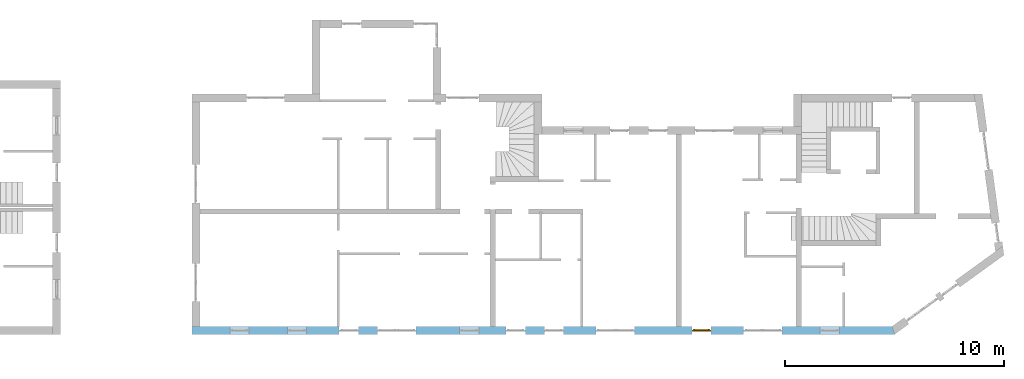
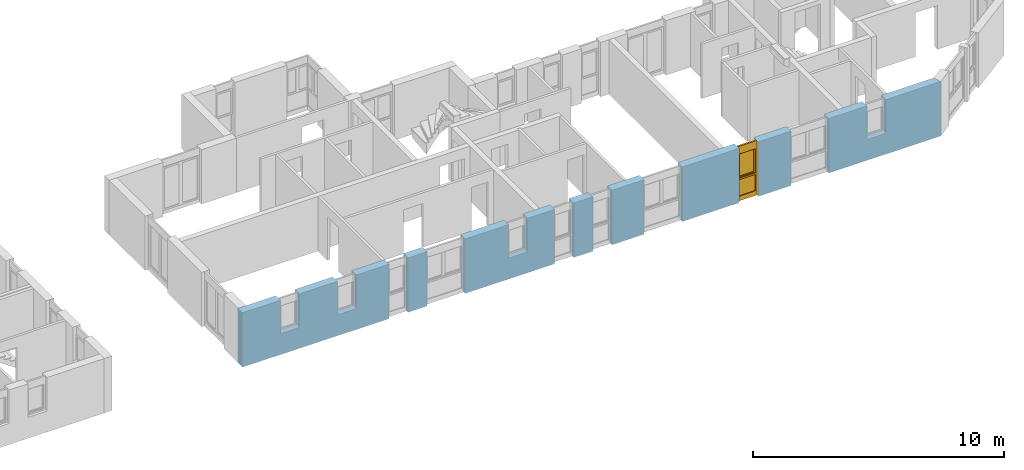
# One storey, part 22 of 42: 1 window, 11 openings, plus 1 element that does not belong to this part.
"""IFC2X3 building model written with IfcOpenShell, lengths in millimetres."""

import ifcopenshell
import ifcopenshell.guid

model = None  # the IFC model being written
_history = None  # IfcOwnerHistory: only IFC2X3 demands one
_inside = {}  # id of a spatial element -> (the spatial element, [elements in it])
_under = {}  # id of a project, library or spatial element -> (it, [spatial elements below it])
_declared = {}  # id of a project -> (the project, [libraries it declares])
_typed = {}  # id of a type object -> (the type object, [elements of that type])
_made_of = {}  # id of a material, layer set ... -> (it, [elements and type objects made of it])


def new_model(schema):
    """Start an empty IFC model of exactly this schema.

    Asked for "IFC4X3", IfcOpenShell would pick the latest addendum, in which some entities
    have other attributes; the version numbers below select the first issue.
    IFC2X3 requires an IfcOwnerHistory on every rooted entity: one is made here for all.
    """
    global model, _history
    if schema == "IFC4X3":
        model = ifcopenshell.file(schema_version=(4, 3, 0, 0))
    else:
        model = ifcopenshell.file(schema=schema)
    _inside.clear()
    _under.clear()
    _declared.clear()
    _typed.clear()
    _made_of.clear()
    _history = None
    if model.schema == "IFC2X3":
        org = make("IfcOrganization", Name="unknown")
        user = make(
            "IfcPersonAndOrganization",
            ThePerson=make("IfcPerson", FamilyName="unknown"),
            TheOrganization=org,
        )
        app = make(
            "IfcApplication",
            ApplicationDeveloper=org,
            Version="unknown",
            ApplicationFullName="unknown",
            ApplicationIdentifier="unknown",
        )
        _history = make(
            "IfcOwnerHistory",
            OwningUser=user,
            OwningApplication=app,
            ChangeAction="ADDED",
            CreationDate=0,
        )
    return model


def make(cls, **values):
    """One entity of the class cls with the attributes given. An attribute that is None is left unset."""
    return model.create_entity(
        cls, **{name: value for name, value in values.items() if value is not None}
    )


def entity(cls, *values):
    """Any entity or typed value of the class cls, its attributes in the order of the schema. None: left unset."""
    e = model.create_entity(cls)
    for i, value in enumerate(values):
        if value is not None:
            e[i] = value
    return e


def rooted(cls, **values):
    """An entity with a GlobalId (a new one), such as an element, a storey or a relation."""
    return make(cls, GlobalId=ifcopenshell.guid.new(), OwnerHistory=_history, **values)


def si_unit(unit_type, name, prefix=None):
    """IfcSIUnit, for example si_unit("LENGTHUNIT", "METRE", prefix="MILLI")."""
    return make("IfcSIUnit", UnitType=unit_type, Prefix=prefix, Name=name)


def converted_unit(unit_type, name, factor, base, dimensions=None, offset=None):
    """IfcConversionBasedUnit, such as the inch: factor (a typed value) times the base unit."""
    return make(
        "IfcConversionBasedUnit"
        if offset is None
        else "IfcConversionBasedUnitWithOffset",
        ConversionOffset=offset,
        Dimensions=None
        if dimensions is None
        else entity("IfcDimensionalExponents", *dimensions),
        UnitType=unit_type,
        Name=name,
        ConversionFactor=make(
            "IfcMeasureWithUnit", ValueComponent=factor, UnitComponent=base
        ),
    )


def assignment(units):
    """IfcUnitAssignment: the units of a project."""
    return None if units is None else make("IfcUnitAssignment", Units=units)


def point(xyz):
    """IfcCartesianPoint."""
    return None if xyz is None else make("IfcCartesianPoint", Coordinates=xyz)


def direction(xyz):
    """IfcDirection."""
    return None if xyz is None else make("IfcDirection", DirectionRatios=xyz)


def frame(location, z_axis=None, x_axis=None):
    """IfcAxis2Placement3D, a coordinate frame: its origin and axes. An axis left out is left unset."""
    return make(
        "IfcAxis2Placement3D",
        Location=point(location),
        Axis=direction(z_axis),
        RefDirection=direction(x_axis),
    )


def frame_2d(location, x_axis=None):
    """IfcAxis2Placement2D, a coordinate frame in the plane: its origin and x axis."""
    return make(
        "IfcAxis2Placement2D", Location=point(location), RefDirection=direction(x_axis)
    )


def origin():
    """The frame at (0, 0, 0) with its axes left unset."""
    return frame((0.0, 0.0, 0.0))


def origin_with_axes():
    """The frame at (0, 0, 0) with the z axis (0, 0, 1) and the x axis (1, 0, 0) written out."""
    return frame((0.0, 0.0, 0.0), z_axis=(0.0, 0.0, 1.0), x_axis=(1.0, 0.0, 0.0))


def place(relative_to, where):
    """IfcLocalPlacement: puts the frame where relative to a parent placement (None: the world)."""
    return make(
        "IfcLocalPlacement", PlacementRelTo=relative_to, RelativePlacement=where
    )


def context(
    kind, dimensions, precision=None, world=None, true_north=None, identifier=None
):
    """IfcGeometricRepresentationContext, for example the 3D "Model" context."""
    return make(
        "IfcGeometricRepresentationContext",
        ContextIdentifier=identifier,
        ContextType=kind,
        CoordinateSpaceDimension=dimensions,
        Precision=precision,
        WorldCoordinateSystem=world,
        TrueNorth=true_north,
    )


def subcontext(parent, identifier, kind, view, scale=None):
    """IfcGeometricRepresentationSubContext, for example "Body" below "Model"."""
    return make(
        "IfcGeometricRepresentationSubContext",
        ContextIdentifier=identifier,
        ContextType=kind,
        ParentContext=parent,
        TargetScale=scale,
        TargetView=view,
    )


def project(units=None, contexts=None):
    """IfcProject with its units and contexts."""
    return rooted(
        "IfcProject",
        Name="project",
        RepresentationContexts=contexts,
        UnitsInContext=assignment(units),
    )


def spatial(cls, under=None, at=None, **own):
    """A site, building, storey or space (cls), placed at a placement, below another one or the project."""
    s = rooted(cls, ObjectPlacement=at, **own)
    if under is not None:
        _under.setdefault(under.id(), (under, []))[1].append(s)
    return s


def polyline(points):
    """IfcPolyline through the points."""
    return make("IfcPolyline", Points=[point(p) for p in points])


def profile(cls, at=None, kind="AREA", **sizes):
    """A parametric profile (cls). Its sizes go by their IFC names, for example OverallWidth=200.0."""
    return make(cls, ProfileType=kind, Position=at, **sizes)


def rectangle(**sizes):
    """IfcRectangleProfileDef."""
    return profile("IfcRectangleProfileDef", **sizes)


def outline(outer, holes=None, kind="AREA"):
    """IfcArbitraryClosedProfileDef: a profile drawn as a closed curve; with holes, ...WithVoids."""
    if holes is None:
        return make("IfcArbitraryClosedProfileDef", ProfileType=kind, OuterCurve=outer)
    return make(
        "IfcArbitraryProfileDefWithVoids",
        ProfileType=kind,
        OuterCurve=outer,
        InnerCurves=holes,
    )


def extrude(swept, where, along, depth):
    """IfcExtrudedAreaSolid: the profile swept, set in the frame where, extruded along a direction by depth."""
    return make(
        "IfcExtrudedAreaSolid",
        SweptArea=swept,
        Position=where,
        ExtrudedDirection=direction(along),
        Depth=depth,
    )


def faces_of(points, faces, orient=None, outer=None):
    """IfcFace entities. A face is a list of loops; a loop is a list of indices into points, from 0.

    orient and outer hold one flag for each loop. By default every Orientation is true, the
    first loop of a face is its IfcFaceOuterBound and the others are IfcFaceBound.
    """
    made = []
    for i, loops in enumerate(faces):
        bounds = []
        for j, loop in enumerate(loops):
            is_outer = j == 0 if outer is None else outer[i][j]
            bounds.append(
                make(
                    "IfcFaceOuterBound" if is_outer else "IfcFaceBound",
                    Bound=make("IfcPolyLoop", Polygon=[points[k] for k in loop]),
                    Orientation=True if orient is None else orient[i][j],
                )
            )
        made.append(make("IfcFace", Bounds=bounds))
    return made


def faceted_brep(points, faces, orient=None, outer=None, voids=None):
    """IfcFacetedBrep: a solid bounded by flat faces; with voids (closed shells), ...WithVoids."""
    shared = [point(p) for p in points]
    hull = make("IfcClosedShell", CfsFaces=faces_of(shared, faces, orient, outer))
    if voids is None:
        return make("IfcFacetedBrep", Outer=hull)
    return make(
        "IfcFacetedBrepWithVoids",
        Outer=hull,
        Voids=[
            make(cls, CfsFaces=faces_of(shared, fs, o, b)) for cls, fs, o, b in voids
        ],
    )


def shape(context_of_items, identifier, shape_type, items):
    """IfcShapeRepresentation: the items that make up one representation, for example the "Body"."""
    return make(
        "IfcShapeRepresentation",
        ContextOfItems=context_of_items,
        RepresentationIdentifier=identifier,
        RepresentationType=shape_type,
        Items=items,
    )


def material(Name=None, Category=None):
    """IfcMaterial."""
    return make("IfcMaterial", Name=Name, Category=Category)


def layer(
    of_material, thickness, ventilated=None, Name=None, Category=None, Priority=None
):
    """IfcMaterialLayer: one layer of a wall or slab, of a material (None: an air gap)."""
    return make(
        "IfcMaterialLayer",
        Material=of_material,
        LayerThickness=thickness,
        IsVentilated=ventilated,
        Name=Name,
        Category=Category,
        Priority=Priority,
    )


def layer_set(layers, Name=None):
    """IfcMaterialLayerSet."""
    return make("IfcMaterialLayerSet", MaterialLayers=layers, LayerSetName=Name)


def layer_usage(for_layer_set, set_direction, sense, offset, extent=None):
    """IfcMaterialLayerSetUsage: how a layer set lies in its element."""
    return make(
        "IfcMaterialLayerSetUsage",
        ForLayerSet=for_layer_set,
        LayerSetDirection=set_direction,
        DirectionSense=sense,
        OffsetFromReferenceLine=offset,
        ReferenceExtent=extent,
    )


def made_of(thing, what):
    """Note that an element or type object is made of a material, layer set ...; save() writes the relation."""
    if what is not None:
        _made_of.setdefault(what.id(), (what, []))[1].append(thing)
    return thing


def type_object(cls, material=None, **own):
    """A type object (cls), such as IfcWallType, which elements share."""
    return made_of(rooted(cls, **own), material)


def element(
    cls,
    number,
    at=None,
    inside=None,
    cuts=None,
    type_object=None,
    material=None,
    context=None,
    identifier="Body",
    shape_type=None,
    held_by="IfcProductDefinitionShape",
    body=None,
    shapes=None,
    **own,
):
    """One element of the class cls, such as IfcWall. Its Tag is "e" and its number.

    at: its placement. inside: the storey or other place that contains it. cuts: it is an
    opening in that element (IfcRelVoidsElement). A single representation is given by context,
    identifier, shape_type and body (its items); several are given by shapes. held_by: the class
    of the entity that holds the representations. save() writes the other relations.
    """
    e = rooted(cls, Tag="e%d" % number, ObjectPlacement=at, **own)
    if body is not None:
        shapes = [shape(context, identifier, shape_type, body)]
    if shapes is not None:
        e.Representation = make(held_by, Representations=shapes)
    if inside is not None:
        _inside.setdefault(inside.id(), (inside, []))[1].append(e)
    if cuts is not None:
        rooted(
            "IfcRelVoidsElement", RelatingBuildingElement=cuts, RelatedOpeningElement=e
        )
    if type_object is not None:
        _typed.setdefault(type_object.id(), (type_object, []))[1].append(e)
    return made_of(e, material)


def fill(opening, filler):
    """IfcRelFillsElement: the door or window that sits in an opening."""
    return rooted(
        "IfcRelFillsElement",
        RelatingOpeningElement=opening,
        RelatedBuildingElement=filler,
    )


def aggregate(whole, parts):
    """IfcRelAggregates: a whole, such as a stair, and the parts it consists of."""
    return rooted("IfcRelAggregates", RelatingObject=whole, RelatedObjects=parts)


def save(model, path):
    """Write the relations noted so far, then the file.

    IfcRelAggregates (storeys below a building ...), IfcRelContainedInSpatialStructure (elements
    in a storey), IfcRelDefinesByType, IfcRelAssociatesMaterial and IfcRelDeclares: one each for
    every whole, place, type object, material and project.
    """
    for whole, parts in _under.values():
        aggregate(whole, parts)
    for where, things in _inside.values():
        rooted(
            "IfcRelContainedInSpatialStructure",
            RelatedElements=things,
            RelatingStructure=where,
        )
    for kind, things in _typed.values():
        rooted("IfcRelDefinesByType", RelatedObjects=things, RelatingType=kind)
    for what, things in _made_of.values():
        rooted("IfcRelAssociatesMaterial", RelatedObjects=things, RelatingMaterial=what)
    for by, libraries in _declared.values():
        rooted("IfcRelDeclares", RelatingContext=by, RelatedDefinitions=libraries)
    model.write(path)


model = new_model("IFC2X3")

# Units and contexts
model_context = context("Model", 3, precision=1e-05, world=origin())
body_context = subcontext(model_context, "Body", "Model", "MODEL_VIEW")
ifc_project = project(units=[si_unit("LENGTHUNIT", "METRE", prefix="MILLI"), converted_unit("PLANEANGLEUNIT", "DEGREE", entity("IfcPlaneAngleMeasure", 0.0174532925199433), si_unit("PLANEANGLEUNIT", "RADIAN"), dimensions=[0, 0, 0, 0, 0, 0, 0]), si_unit("AREAUNIT", "SQUARE_METRE"), si_unit("VOLUMEUNIT", "CUBIC_METRE")], contexts=[model_context])

# Building, storey
building_placement = place(None, origin())
building = spatial("IfcBuilding", under=ifc_project, at=building_placement, Name="Gebäude", CompositionType="ELEMENT")
storey_placement = place(building_placement, frame((0.0, 0.0, 2730.0), z_axis=(0.0, 0.0, 1.0), x_axis=(1.0, 0.0, 0.0)))
storey = spatial("IfcBuildingStorey", under=building, at=storey_placement, Name="OG.- Grundriss", CompositionType="ELEMENT", Elevation=2730.0)

# Wall, openings, window
ifc_material_1 = material(Name="Poroton")
ifc_layer = layer(ifc_material_1, 365.0000000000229)
ifc_layer_set = layer_set([ifc_layer])
ifc_layer_usage = layer_usage(ifc_layer_set, "AXIS2", "POSITIVE", 0.0)
wall_placement = place(storey_placement, frame((148357.7928067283, 125274.8877324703, 0.0), z_axis=(0.0, 0.0, 1.0), x_axis=(1.0, -2.749268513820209e-11, 0.0)))
wall = element("IfcWallStandardCase", 1, at=wall_placement, inside=storey, material=ifc_layer_usage, Name="<Unnamed Element>", context=body_context, shape_type="SweptSolid", body=[
    extrude(outline(polyline([(0.0, 0.0), (32144.99999877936, 0.0), (32026.74038666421, 365.0000000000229), (-1.003483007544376e-08, 365.0), (0.0, 0.0)])), origin_with_axes(), (0.0, 0.0, 1.0), 2650.0),
])
opening_1_placement = place(wall_placement, frame((22865.29648749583, -9.393166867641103e-11, 0.0), z_axis=(0.0, 1.0, 0.0), x_axis=(0.0, 0.0, 1.0)))
opening_1 = element("IfcOpeningElement", 2, at=opening_1_placement, cuts=wall, Name="Fensteröffnung", ObjectType="Opening", context=body_context, shape_type="SweptSolid", body=[
    extrude(rectangle(XDim=2650.0, YDim=885.0, at=frame_2d((1325.0, 442.5), x_axis=(1.0, 0.0))), origin_with_axes(), (0.0, 0.0, 1.0), 365.0000000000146),
])
opening_2_placement = place(wall_placement, frame((25240.29648749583, -1.030266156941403e-10, 0.0), z_axis=(0.0, 1.0, 0.0), x_axis=(0.0, 0.0, 1.0)))
element("IfcOpeningElement", 3, at=opening_2_placement, cuts=wall, Name="Fensteröffnung", ObjectType="Opening", context=body_context, shape_type="SweptSolid", body=[
    extrude(rectangle(XDim=2650.0, YDim=1760.0, at=frame_2d((1325.0, 880.0), x_axis=(1.0, 0.0))), origin_with_axes(), (0.0, 0.0, 1.0), 365.0000000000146),
])
opening_3_placement = place(wall_placement, frame((14365.26291869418, -5.847463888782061e-11, 0.0), z_axis=(0.0, 1.0, 0.0), x_axis=(0.0, 0.0, 1.0)))
element("IfcOpeningElement", 4, at=opening_3_placement, cuts=wall, Name="Fensteröffnung", ObjectType="Opening", context=body_context, shape_type="SweptSolid", body=[
    extrude(rectangle(XDim=2650.0, YDim=885.0, at=frame_2d((1325.0, 442.5), x_axis=(1.0, 0.0))), origin_with_axes(), (0.0, 0.0, 1.0), 365.0000000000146),
])
opening_4_placement = place(wall_placement, frame((16123.92212975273, -7.146586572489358e-11, 0.0), z_axis=(0.0, 1.0, 0.0), x_axis=(0.0, 0.0, 1.0)))
element("IfcOpeningElement", 5, at=opening_4_placement, cuts=wall, Name="Fensteröffnung", ObjectType="Opening", context=body_context, shape_type="SweptSolid", body=[
    extrude(rectangle(XDim=2650.0, YDim=885.0, at=frame_2d((1325.0, 442.5), x_axis=(1.0, 0.0))), origin_with_axes(), (0.0, 0.0, 1.0), 365.0000000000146),
])
opening_5_placement = place(wall_placement, frame((6739.999999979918, -3.114109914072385e-11, 0.0), z_axis=(0.0, 1.0, 0.0), x_axis=(0.0, 0.0, 1.0)))
element("IfcOpeningElement", 6, at=opening_5_placement, cuts=wall, Name="Fensteröffnung", ObjectType="Opening", context=body_context, shape_type="SweptSolid", body=[
    extrude(rectangle(XDim=2650.0, YDim=885.0, at=frame_2d((1325.0, 442.5), x_axis=(1.0, 0.0))), origin_with_axes(), (0.0, 0.0, 1.0), 365.0000000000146),
])
opening_6_placement = place(wall_placement, frame((8489.999999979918, -3.477907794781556e-11, 0.0), z_axis=(0.0, 1.0, 0.0), x_axis=(0.0, 0.0, 1.0)))
element("IfcOpeningElement", 7, at=opening_6_placement, cuts=wall, Name="Fensteröffnung", ObjectType="Opening", context=body_context, shape_type="SweptSolid", body=[
    extrude(rectangle(XDim=2650.0, YDim=1760.0, at=frame_2d((1325.0, 880.0), x_axis=(1.0, 0.0))), origin_with_axes(), (0.0, 0.0, 1.0), 365.0000000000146),
])
opening_7_placement = place(wall_placement, frame((1740.0, -3.114109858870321e-11, 1020.0), z_axis=(0.0, 1.0, 0.0), x_axis=(0.0, 0.0, 1.0)))
element("IfcOpeningElement", 8, at=opening_7_placement, cuts=wall, Name="Fensteröffnung", ObjectType="Opening", context=body_context, shape_type="SweptSolid", body=[
    extrude(rectangle(XDim=1630.0, YDim=885.0, at=frame_2d((815.0, 442.5), x_axis=(1.0, 0.0))), origin_with_axes(), (0.0, 0.0, 1.0), 365.0000000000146),
])
opening_8_placement = place(wall_placement, frame((4365.0, -7.494236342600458e-12, 1020.0), z_axis=(0.0, 1.0, 0.0), x_axis=(0.0, 0.0, 1.0)))
element("IfcOpeningElement", 9, at=opening_8_placement, cuts=wall, Name="Fensteröffnung", ObjectType="Opening", context=body_context, shape_type="SweptSolid", body=[
    extrude(rectangle(XDim=1630.0, YDim=885.0, at=frame_2d((815.0, 442.5), x_axis=(1.0, 0.0))), origin_with_axes(), (0.0, 0.0, 1.0), 365.0000000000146),
])
opening_9_placement = place(wall_placement, frame((12240.0, -5.296897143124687e-11, 1020.0), z_axis=(0.0, 1.0, 0.0), x_axis=(0.0, 0.0, 1.0)))
element("IfcOpeningElement", 10, at=opening_9_placement, cuts=wall, Name="Fensteröffnung", ObjectType="Opening", context=body_context, shape_type="SweptSolid", body=[
    extrude(rectangle(XDim=1630.0, YDim=885.0, at=frame_2d((815.0, 442.5), x_axis=(1.0, 0.0))), origin_with_axes(), (0.0, 0.0, 1.0), 365.0000000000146),
])
opening_10_placement = place(wall_placement, frame((18490.51063065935, -4.984640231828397e-11, 0.0), z_axis=(0.0, 1.0, 0.0), x_axis=(0.0, 0.0, 1.0)))
element("IfcOpeningElement", 11, at=opening_10_placement, cuts=wall, Name="Fensteröffnung", ObjectType="Opening", context=body_context, shape_type="SweptSolid", body=[
    extrude(rectangle(XDim=2650.0, YDim=1760.0, at=frame_2d((1325.0, 880.0), x_axis=(1.0, 0.0))), origin_with_axes(), (0.0, 0.0, 1.0), 365.0000000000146),
])
opening_11_placement = place(wall_placement, frame((28740.29648749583, -1.103025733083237e-10, 1020.0), z_axis=(0.0, 1.0, 0.0), x_axis=(0.0, 0.0, 1.0)))
element("IfcOpeningElement", 12, at=opening_11_placement, cuts=wall, Name="Fensteröffnung", ObjectType="Opening", context=body_context, shape_type="SweptSolid", body=[
    extrude(rectangle(XDim=1630.0, YDim=885.0, at=frame_2d((815.0, 442.5), x_axis=(1.0, 0.0))), origin_with_axes(), (0.0, 0.0, 1.0), 365.0000000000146),
])
ifc_material_2 = material()
window_style = type_object("IfcWindowStyle", Name="Fenster", ConstructionType="NOTDEFINED", OperationType="USERDEFINED", ParameterTakesPrecedence=False, Sizeable=False)
window_placement = place(opening_1_placement, frame((0.0, 0.0, 0.0), z_axis=(1.0, 0.0, 0.0), x_axis=(0.0, 1.0, 0.0)))
window = element("IfcWindow", 13, at=window_placement, inside=storey, type_object=window_style, material=ifc_material_2, Name="Fenster", OverallHeight=2650.0, OverallWidth=885.0, context=body_context, shape_type="Brep", body=[
    faceted_brep([(885.0000000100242, 200.0000000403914, 2650.0), (815.0000000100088, 200.0000000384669, 2650.0), (815.0000000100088, 200.0000000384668, -2.449293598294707e-15), (885.0000000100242, 200.0000000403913, -2.449293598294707e-15), (885.0000000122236, 120.0000000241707, 2.449293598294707e-15), (815.0000000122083, 120.0000000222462, 2.449293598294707e-15), (815.0000000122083, 120.0000000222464, 2650.0), (885.0000000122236, 120.0000000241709, 2650.0), (885.0000000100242, 200.0000000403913, -2.449293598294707e-15), (885.0000000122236, 120.0000000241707, 2.449293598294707e-15), (885.0000000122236, 120.0000000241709, 2650.0), (885.0000000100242, 200.0000000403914, 2650.0), (815.0000000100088, 200.0000000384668, -2.449293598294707e-15), (815.0000000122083, 120.0000000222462, 2.449293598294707e-15), (885.0000000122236, 120.0000000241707, 2.449293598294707e-15), (885.0000000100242, 200.0000000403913, -2.449293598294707e-15), (815.0000000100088, 200.0000000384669, 2650.0), (815.0000000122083, 120.0000000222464, 2650.0), (815.0000000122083, 120.0000000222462, 2.449293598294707e-15), (815.0000000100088, 200.0000000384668, -2.449293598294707e-15), (885.0000000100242, 200.0000000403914, 2650.0), (885.0000000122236, 120.0000000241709, 2650.0), (815.0000000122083, 120.0000000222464, 2650.0), (815.0000000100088, 200.0000000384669, 2650.0)], [[[0, 1, 2, 3]], [[4, 5, 6, 7]], [[8, 9, 10, 11]], [[12, 13, 14, 15]], [[16, 17, 18, 19]], [[20, 21, 22, 23]]], orient=[[False], [False], [False], [False], [False], [False]]),
    faceted_brep([(69.99999999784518, 200.0000000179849, 2650.0), (-2.170168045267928e-09, 200.0000000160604, 2650.0), (-2.170168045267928e-09, 200.0000000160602, -2.449293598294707e-15), (69.99999999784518, 200.0000000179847, -2.449293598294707e-15), (70.00000000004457, 120.0000000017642, 2.449293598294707e-15), (2.921751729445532e-11, 119.9999999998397, 2.449293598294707e-15), (2.921751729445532e-11, 119.9999999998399, 2650.0), (70.00000000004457, 120.0000000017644, 2650.0), (69.99999999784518, 200.0000000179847, -2.449293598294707e-15), (70.00000000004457, 120.0000000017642, 2.449293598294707e-15), (70.00000000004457, 120.0000000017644, 2650.0), (69.99999999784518, 200.0000000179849, 2650.0), (-2.170168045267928e-09, 200.0000000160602, -2.449293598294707e-15), (2.921751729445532e-11, 119.9999999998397, 2.449293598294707e-15), (70.00000000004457, 120.0000000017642, 2.449293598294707e-15), (69.99999999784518, 200.0000000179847, -2.449293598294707e-15), (-2.170168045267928e-09, 200.0000000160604, 2650.0), (2.921751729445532e-11, 119.9999999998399, 2650.0), (2.921751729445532e-11, 119.9999999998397, 2.449293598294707e-15), (-2.170168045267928e-09, 200.0000000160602, -2.449293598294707e-15), (69.99999999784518, 200.0000000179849, 2650.0), (70.00000000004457, 120.0000000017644, 2650.0), (2.921751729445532e-11, 119.9999999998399, 2650.0), (-2.170168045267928e-09, 200.0000000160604, 2650.0)], [[[0, 1, 2, 3]], [[4, 5, 6, 7]], [[8, 9, 10, 11]], [[12, 13, 14, 15]], [[16, 17, 18, 19]], [[20, 21, 22, 23]]], orient=[[False], [False], [False], [False], [False], [False]]),
    faceted_brep([(815.0000000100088, 200.0000000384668, 220.0), (69.99999999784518, 200.0000000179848, 220.0), (69.99999999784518, 200.0000000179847, -2.449293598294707e-15), (815.0000000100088, 200.0000000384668, -2.449293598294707e-15), (815.0000000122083, 120.0000000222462, 2.449293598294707e-15), (70.00000000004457, 120.0000000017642, 2.449293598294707e-15), (70.00000000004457, 120.0000000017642, 220.0), (815.0000000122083, 120.0000000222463, 220.0), (815.0000000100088, 200.0000000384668, -2.449293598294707e-15), (815.0000000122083, 120.0000000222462, 2.449293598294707e-15), (815.0000000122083, 120.0000000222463, 220.0), (815.0000000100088, 200.0000000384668, 220.0), (69.99999999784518, 200.0000000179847, -2.449293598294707e-15), (70.00000000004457, 120.0000000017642, 2.449293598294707e-15), (815.0000000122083, 120.0000000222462, 2.449293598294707e-15), (815.0000000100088, 200.0000000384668, -2.449293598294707e-15), (69.99999999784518, 200.0000000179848, 220.0), (70.00000000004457, 120.0000000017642, 220.0), (70.00000000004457, 120.0000000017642, 2.449293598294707e-15), (69.99999999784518, 200.0000000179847, -2.449293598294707e-15), (815.0000000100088, 200.0000000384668, 220.0), (815.0000000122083, 120.0000000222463, 220.0), (70.00000000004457, 120.0000000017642, 220.0), (69.99999999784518, 200.0000000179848, 220.0)], [[[0, 1, 2, 3]], [[4, 5, 6, 7]], [[8, 9, 10, 11]], [[12, 13, 14, 15]], [[16, 17, 18, 19]], [[20, 21, 22, 23]]], orient=[[False], [False], [False], [False], [False], [False]]),
    faceted_brep([(815.0000000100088, 200.0000000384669, 2650.0), (69.99999999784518, 200.0000000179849, 2650.0), (69.99999999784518, 200.0000000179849, 2280.0), (815.0000000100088, 200.0000000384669, 2280.0), (815.0000000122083, 120.0000000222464, 2280.0), (70.00000000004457, 120.0000000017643, 2280.0), (70.00000000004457, 120.0000000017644, 2650.0), (815.0000000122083, 120.0000000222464, 2650.0), (815.0000000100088, 200.0000000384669, 2280.0), (815.0000000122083, 120.0000000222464, 2280.0), (815.0000000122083, 120.0000000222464, 2650.0), (815.0000000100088, 200.0000000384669, 2650.0), (69.99999999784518, 200.0000000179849, 2280.0), (70.00000000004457, 120.0000000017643, 2280.0), (815.0000000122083, 120.0000000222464, 2280.0), (815.0000000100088, 200.0000000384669, 2280.0), (69.99999999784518, 200.0000000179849, 2650.0), (70.00000000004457, 120.0000000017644, 2650.0), (70.00000000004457, 120.0000000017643, 2280.0), (69.99999999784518, 200.0000000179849, 2280.0), (815.0000000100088, 200.0000000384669, 2650.0), (815.0000000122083, 120.0000000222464, 2650.0), (70.00000000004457, 120.0000000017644, 2650.0), (69.99999999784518, 200.0000000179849, 2650.0)], [[[0, 1, 2, 3]], [[4, 5, 6, 7]], [[8, 9, 10, 11]], [[12, 13, 14, 15]], [[16, 17, 18, 19]], [[20, 21, 22, 23]]], orient=[[False], [False], [False], [False], [False], [False]]),
    faceted_brep([(815.0000000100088, 200.0000000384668, 1090.0), (69.99999999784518, 200.0000000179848, 1090.0), (69.99999999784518, 200.0000000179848, 1020.0), (815.0000000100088, 200.0000000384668, 1020.0), (815.0000000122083, 120.0000000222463, 1020.0), (70.00000000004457, 120.0000000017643, 1020.0), (70.00000000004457, 120.0000000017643, 1090.0), (815.0000000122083, 120.0000000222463, 1090.0), (815.0000000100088, 200.0000000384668, 1020.0), (815.0000000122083, 120.0000000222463, 1020.0), (815.0000000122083, 120.0000000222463, 1090.0), (815.0000000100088, 200.0000000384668, 1090.0), (69.99999999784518, 200.0000000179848, 1020.0), (70.00000000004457, 120.0000000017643, 1020.0), (815.0000000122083, 120.0000000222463, 1020.0), (815.0000000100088, 200.0000000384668, 1020.0), (69.99999999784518, 200.0000000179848, 1090.0), (70.00000000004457, 120.0000000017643, 1090.0), (70.00000000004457, 120.0000000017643, 1020.0), (69.99999999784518, 200.0000000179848, 1020.0), (815.0000000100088, 200.0000000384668, 1090.0), (815.0000000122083, 120.0000000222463, 1090.0), (70.00000000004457, 120.0000000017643, 1090.0), (69.99999999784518, 200.0000000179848, 1090.0)], [[[0, 1, 2, 3]], [[4, 5, 6, 7]], [[8, 9, 10, 11]], [[12, 13, 14, 15]], [[16, 17, 18, 19]], [[20, 21, 22, 23]]], orient=[[False], [False], [False], [False], [False], [False]]),
    faceted_brep([(815.0000000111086, 160.0000000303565, 220.0), (815.0000000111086, 160.0000000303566, 1020.0), (69.99999999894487, 160.0000000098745, 1020.0), (69.99999999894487, 160.0000000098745, 220.0), (815.0000000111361, 159.0000000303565, 220.0), (69.99999999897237, 159.0000000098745, 220.0), (69.99999999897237, 159.0000000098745, 1020.0), (815.0000000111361, 159.0000000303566, 1020.0), (815.0000000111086, 160.0000000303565, 220.0), (815.0000000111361, 159.0000000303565, 220.0), (815.0000000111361, 159.0000000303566, 1020.0), (815.0000000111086, 160.0000000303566, 1020.0), (815.0000000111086, 160.0000000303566, 1020.0), (815.0000000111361, 159.0000000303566, 1020.0), (69.99999999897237, 159.0000000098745, 1020.0), (69.99999999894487, 160.0000000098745, 1020.0), (69.99999999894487, 160.0000000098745, 1020.0), (69.99999999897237, 159.0000000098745, 1020.0), (69.99999999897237, 159.0000000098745, 220.0), (69.99999999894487, 160.0000000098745, 220.0), (69.99999999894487, 160.0000000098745, 220.0), (69.99999999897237, 159.0000000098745, 220.0), (815.0000000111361, 159.0000000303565, 220.0), (815.0000000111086, 160.0000000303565, 220.0)], [[[0, 1, 2, 3]], [[4, 5, 6, 7]], [[8, 9, 10, 11]], [[12, 13, 14, 15]], [[16, 17, 18, 19]], [[20, 21, 22, 23]]], orient=[[False], [False], [False], [False], [False], [False]]),
    faceted_brep([(835.0000000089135, 240.000000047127, 2300.0), (765.0000000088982, 240.0000000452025, 2300.0), (765.0000000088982, 240.0000000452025, 1070.0), (835.0000000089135, 240.000000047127, 1070.0), (835.000000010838, 170.000000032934, 1070.0), (765.0000000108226, 170.0000000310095, 1070.0), (765.0000000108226, 170.0000000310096, 2300.0), (835.000000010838, 170.0000000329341, 2300.0), (835.0000000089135, 240.000000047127, 1070.0), (835.000000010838, 170.000000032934, 1070.0), (835.000000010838, 170.0000000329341, 2300.0), (835.0000000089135, 240.000000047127, 2300.0), (765.0000000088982, 240.0000000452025, 1070.0), (765.0000000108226, 170.0000000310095, 1070.0), (835.000000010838, 170.000000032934, 1070.0), (835.0000000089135, 240.000000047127, 1070.0), (765.0000000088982, 240.0000000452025, 2300.0), (765.0000000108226, 170.0000000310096, 2300.0), (765.0000000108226, 170.0000000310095, 1070.0), (765.0000000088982, 240.0000000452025, 1070.0), (835.0000000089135, 240.000000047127, 2300.0), (835.000000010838, 170.0000000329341, 2300.0), (765.0000000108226, 170.0000000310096, 2300.0), (765.0000000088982, 240.0000000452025, 2300.0)], [[[0, 1, 2, 3]], [[4, 5, 6, 7]], [[8, 9, 10, 11]], [[12, 13, 14, 15]], [[16, 17, 18, 19]], [[20, 21, 22, 23]]], orient=[[False], [False], [False], [False], [False], [False]]),
    faceted_brep([(119.9999999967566, 240.0000000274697, 2300.0), (49.99999999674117, 240.0000000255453, 2300.0), (49.99999999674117, 240.0000000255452, 1070.0), (119.9999999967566, 240.0000000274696, 1070.0), (119.9999999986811, 170.0000000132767, 1070.0), (49.99999999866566, 170.0000000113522, 1070.0), (49.99999999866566, 170.0000000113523, 2300.0), (119.9999999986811, 170.0000000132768, 2300.0), (119.9999999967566, 240.0000000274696, 1070.0), (119.9999999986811, 170.0000000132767, 1070.0), (119.9999999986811, 170.0000000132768, 2300.0), (119.9999999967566, 240.0000000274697, 2300.0), (49.99999999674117, 240.0000000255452, 1070.0), (49.99999999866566, 170.0000000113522, 1070.0), (119.9999999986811, 170.0000000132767, 1070.0), (119.9999999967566, 240.0000000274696, 1070.0), (49.99999999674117, 240.0000000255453, 2300.0), (49.99999999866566, 170.0000000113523, 2300.0), (49.99999999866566, 170.0000000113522, 1070.0), (49.99999999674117, 240.0000000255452, 1070.0), (119.9999999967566, 240.0000000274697, 2300.0), (119.9999999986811, 170.0000000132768, 2300.0), (49.99999999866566, 170.0000000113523, 2300.0), (49.99999999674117, 240.0000000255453, 2300.0)], [[[0, 1, 2, 3]], [[4, 5, 6, 7]], [[8, 9, 10, 11]], [[12, 13, 14, 15]], [[16, 17, 18, 19]], [[20, 21, 22, 23]]], orient=[[False], [False], [False], [False], [False], [False]]),
    faceted_brep([(765.0000000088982, 240.0000000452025, 1140.0), (119.9999999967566, 240.0000000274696, 1140.0), (119.9999999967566, 240.0000000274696, 1070.0), (765.0000000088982, 240.0000000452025, 1070.0), (765.0000000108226, 170.0000000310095, 1070.0), (119.9999999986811, 170.0000000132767, 1070.0), (119.9999999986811, 170.0000000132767, 1140.0), (765.0000000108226, 170.0000000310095, 1140.0), (765.0000000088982, 240.0000000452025, 1070.0), (765.0000000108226, 170.0000000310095, 1070.0), (765.0000000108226, 170.0000000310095, 1140.0), (765.0000000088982, 240.0000000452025, 1140.0), (119.9999999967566, 240.0000000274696, 1070.0), (119.9999999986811, 170.0000000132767, 1070.0), (765.0000000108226, 170.0000000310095, 1070.0), (765.0000000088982, 240.0000000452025, 1070.0), (119.9999999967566, 240.0000000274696, 1140.0), (119.9999999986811, 170.0000000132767, 1140.0), (119.9999999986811, 170.0000000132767, 1070.0), (119.9999999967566, 240.0000000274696, 1070.0), (765.0000000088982, 240.0000000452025, 1140.0), (765.0000000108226, 170.0000000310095, 1140.0), (119.9999999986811, 170.0000000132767, 1140.0), (119.9999999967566, 240.0000000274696, 1140.0)], [[[0, 1, 2, 3]], [[4, 5, 6, 7]], [[8, 9, 10, 11]], [[12, 13, 14, 15]], [[16, 17, 18, 19]], [[20, 21, 22, 23]]], orient=[[False], [False], [False], [False], [False], [False]]),
    faceted_brep([(765.0000000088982, 240.0000000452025, 2300.0), (119.9999999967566, 240.0000000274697, 2300.0), (119.9999999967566, 240.0000000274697, 2230.0), (765.0000000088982, 240.0000000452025, 2230.0), (765.0000000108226, 170.0000000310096, 2230.0), (119.9999999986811, 170.0000000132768, 2230.0), (119.9999999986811, 170.0000000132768, 2300.0), (765.0000000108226, 170.0000000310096, 2300.0), (765.0000000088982, 240.0000000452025, 2230.0), (765.0000000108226, 170.0000000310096, 2230.0), (765.0000000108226, 170.0000000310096, 2300.0), (765.0000000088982, 240.0000000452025, 2300.0), (119.9999999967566, 240.0000000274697, 2230.0), (119.9999999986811, 170.0000000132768, 2230.0), (765.0000000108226, 170.0000000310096, 2230.0), (765.0000000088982, 240.0000000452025, 2230.0), (119.9999999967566, 240.0000000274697, 2300.0), (119.9999999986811, 170.0000000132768, 2300.0), (119.9999999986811, 170.0000000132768, 2230.0), (119.9999999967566, 240.0000000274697, 2230.0), (765.0000000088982, 240.0000000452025, 2300.0), (765.0000000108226, 170.0000000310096, 2300.0), (119.9999999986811, 170.0000000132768, 2300.0), (119.9999999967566, 240.0000000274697, 2300.0)], [[[0, 1, 2, 3]], [[4, 5, 6, 7]], [[8, 9, 10, 11]], [[12, 13, 14, 15]], [[16, 17, 18, 19]], [[20, 21, 22, 23]]], orient=[[False], [False], [False], [False], [False], [False]]),
    faceted_brep([(765.0000000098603, 205.000000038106, 1140.0), (765.0000000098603, 205.0000000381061, 2230.0), (119.9999999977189, 205.0000000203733, 2230.0), (119.9999999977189, 205.0000000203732, 1140.0), (765.0000000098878, 204.000000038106, 1140.0), (119.9999999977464, 204.0000000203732, 1140.0), (119.9999999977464, 204.0000000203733, 2230.0), (765.0000000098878, 204.0000000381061, 2230.0), (765.0000000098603, 205.000000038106, 1140.0), (765.0000000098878, 204.000000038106, 1140.0), (765.0000000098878, 204.0000000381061, 2230.0), (765.0000000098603, 205.0000000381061, 2230.0), (765.0000000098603, 205.0000000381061, 2230.0), (765.0000000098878, 204.0000000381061, 2230.0), (119.9999999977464, 204.0000000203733, 2230.0), (119.9999999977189, 205.0000000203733, 2230.0), (119.9999999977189, 205.0000000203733, 2230.0), (119.9999999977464, 204.0000000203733, 2230.0), (119.9999999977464, 204.0000000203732, 1140.0), (119.9999999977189, 205.0000000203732, 1140.0), (119.9999999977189, 205.0000000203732, 1140.0), (119.9999999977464, 204.0000000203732, 1140.0), (765.0000000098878, 204.000000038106, 1140.0), (765.0000000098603, 205.000000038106, 1140.0)], [[[0, 1, 2, 3]], [[4, 5, 6, 7]], [[8, 9, 10, 11]], [[12, 13, 14, 15]], [[16, 17, 18, 19]], [[20, 21, 22, 23]]], orient=[[False], [False], [False], [False], [False], [False]]),
])
fill(opening_1, window)

save(model, "model.ifc")
